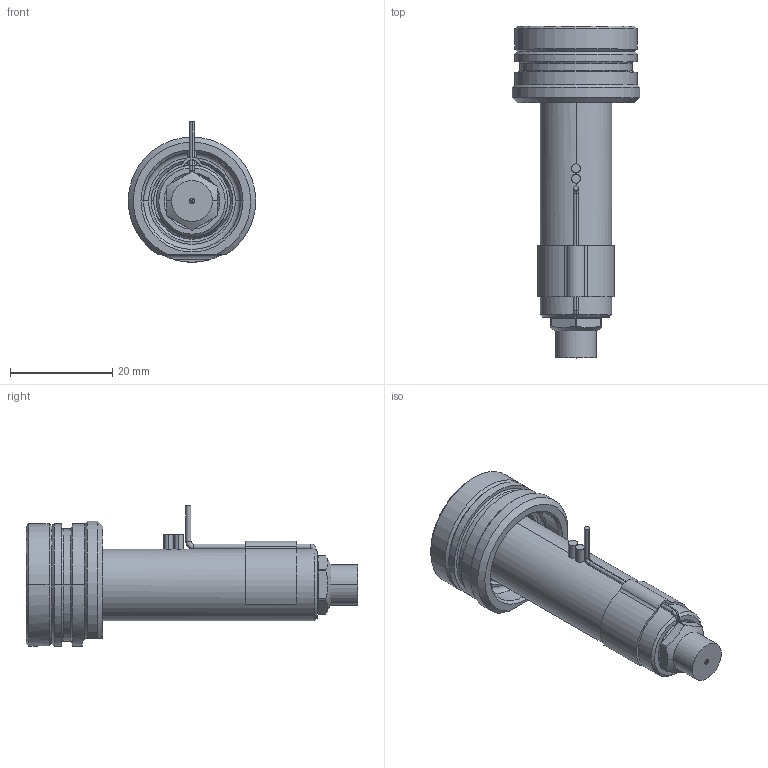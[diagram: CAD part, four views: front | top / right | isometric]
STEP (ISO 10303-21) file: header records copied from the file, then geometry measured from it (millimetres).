
FILE_DESCRIPTION((''),'2;1');
FILE_NAME('EO04_PG-FB_STD_050_SW','2024-02-19T11:20:41',('sundharh'),(''),'CREO PARAMETRIC BY PTC INC, 2023154','CREO PARAMETRIC BY PTC INC, 2023154','');
FILE_SCHEMA(('CONFIG_CONTROL_DESIGN'));
Length unit declared in the file: millimetre
Products named in the file (1): EO04_PG-FB_STD_050_SW
Bounding box: 24.99 x 65 x 27.5 mm (x, y, z)
Volume: 12345.5 mm3; surface area: 6904.5 mm2
Topology: 2 solids, 2 shells, 223 faces, 599 edges, 366 vertices
Faces by surface type: cylinder 84, plane 59, cone 44, torus 22, bspline 11, sphere 3
Entity records: 8132 total; most frequent: CARTESIAN_POINT 2500, DIRECTION 1225, ORIENTED_EDGE 1182, EDGE_CURVE 591, AXIS2_PLACEMENT_3D 514, VERTEX_POINT 366, CIRCLE 302, EDGE_LOOP 239
